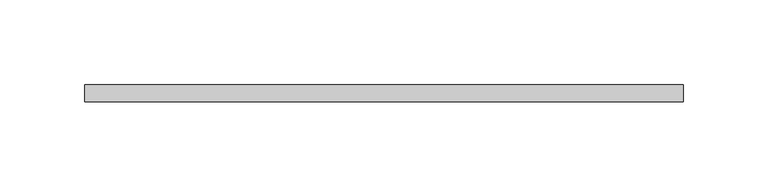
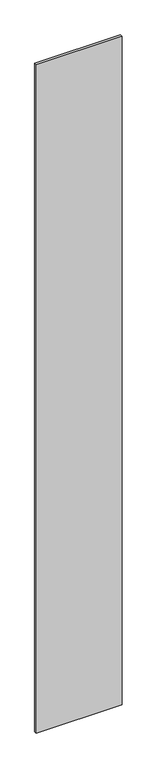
"""IFC4 building model written with IfcOpenShell, lengths in millimetres: plate geometry, システム パネル : 標準."""

from ifc_helpers import new_model, si_unit, origin, origin_with_axes, place, context, project, spatial, polyline, outline, extrude, source, transform, mapped, element, save


def plate_488bd90f(model_context):
    return source(origin(), model_context, "Body", "SweptSolid", [
        extrude(outline(polyline([(176.0712115, -5.0), (-176.0712115, -5.0), (-176.0712115, 5.0), (176.0712115, 5.0), (176.0712115, -5.0)])), origin_with_axes(), (0.0, 0.0, 1.0), 2895.0),
    ])


if __name__ == "__main__":
    model = new_model("IFC4")
    model_context = context("Model", 3, world=origin())
    ifc_project = project(units=[si_unit("LENGTHUNIT", "METRE", prefix="MILLI")], contexts=[model_context])
    site = spatial("IfcSite", under=ifc_project)
    building = spatial("IfcBuilding", under=site)
    placement = place(None, origin())
    plate_shape = plate_488bd90f(model_context)
    element("IfcPlate", 1, ObjectType="システム パネル : 標準", at=placement, inside=building, context=model_context, shape_type="MappedRepresentation", body=[
        mapped(plate_shape, transform((0.0, 0.0, 0.0), x_axis=(1.0, 0.0, 0.0), y_axis=(0.0, 1.0, 0.0), z_axis=(0.0, 0.0, 1.0))),
    ])
    save(model, "model.ifc")
